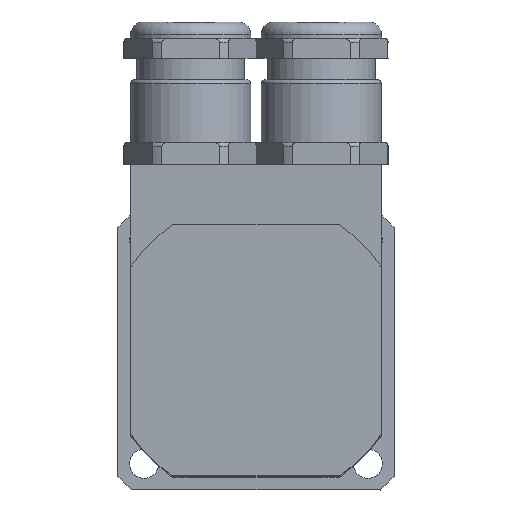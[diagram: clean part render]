
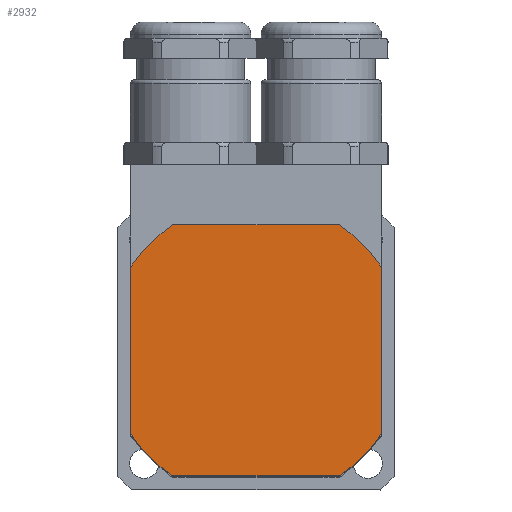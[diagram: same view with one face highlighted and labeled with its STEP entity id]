
A CAD part, top view. The second image highlights one B-rep face of the part: STEP entity #2932.
In plain terms, the highlighted planar face has unit normal (0, 0, 1).
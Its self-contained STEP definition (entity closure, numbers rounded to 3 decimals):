
#637=CIRCLE('',#3142,30.);
#638=CIRCLE('',#3144,30.);
#639=CIRCLE('',#3146,30.);
#641=CIRCLE('',#3149,30.);
#837=VERTEX_POINT('',#4816);
#838=VERTEX_POINT('',#4818);
#841=VERTEX_POINT('',#4826);
#842=VERTEX_POINT('',#4828);
#849=VERTEX_POINT('',#4844);
#850=VERTEX_POINT('',#4846);
#855=VERTEX_POINT('',#4875);
#856=VERTEX_POINT('',#4884);
#1062=VECTOR('',#3606,1.);
#1067=VECTOR('',#3612,1.);
#1076=VECTOR('',#3622,1.);
#1088=VECTOR('',#3671,1.);
#1256=LINE('',#4817,#1062);
#1261=LINE('',#4827,#1067);
#1270=LINE('',#4845,#1076);
#1282=LINE('',#4887,#1088);
#1531=EDGE_CURVE('',#837,#838,#1256,.T.);
#1536=EDGE_CURVE('',#841,#842,#1261,.T.);
#1545=EDGE_CURVE('',#849,#850,#1270,.T.);
#1560=EDGE_CURVE('',#855,#841,#637,.T.);
#1562=EDGE_CURVE('',#842,#837,#638,.T.);
#1563=EDGE_CURVE('',#838,#849,#639,.T.);
#1565=EDGE_CURVE('',#850,#856,#641,.T.);
#1567=EDGE_CURVE('',#856,#855,#1282,.T.);
#2154=ORIENTED_EDGE('',*,*,#1560,.F.);
#2155=ORIENTED_EDGE('',*,*,#1567,.F.);
#2156=ORIENTED_EDGE('',*,*,#1565,.F.);
#2157=ORIENTED_EDGE('',*,*,#1545,.F.);
#2158=ORIENTED_EDGE('',*,*,#1563,.F.);
#2159=ORIENTED_EDGE('',*,*,#1531,.F.);
#2160=ORIENTED_EDGE('',*,*,#1562,.F.);
#2161=ORIENTED_EDGE('',*,*,#1536,.F.);
#2568=EDGE_LOOP('',(#2154,#2155,#2156,#2157,#2158,#2159,#2160,#2161));
#2762=FACE_BOUND('',#2568,.T.);
#2932=ADVANCED_FACE('',(#2762),#5903,.T.);
#3142=AXIS2_PLACEMENT_3D('',#4874,#3652,#3653);
#3144=AXIS2_PLACEMENT_3D('',#4878,#3657,#3658);
#3146=AXIS2_PLACEMENT_3D('',#4880,#3661,#3662);
#3149=AXIS2_PLACEMENT_3D('',#4883,#3667,#3668);
#3151=AXIS2_PLACEMENT_3D('',#4888,#3672,$);
#3606=DIRECTION('',(-1.,0.,0.));
#3612=DIRECTION('',(0.,-1.,0.));
#3622=DIRECTION('',(0.,1.,0.));
#3652=DIRECTION('',(0.,0.,-1.));
#3653=DIRECTION('',(-25.,-16.583,0.));
#3657=DIRECTION('',(0.,0.,-1.));
#3658=DIRECTION('',(-16.583,25.,0.));
#3661=DIRECTION('',(0.,0.,-1.));
#3662=DIRECTION('',(25.,16.583,0.));
#3667=DIRECTION('',(0.,0.,-1.));
#3668=DIRECTION('',(16.583,-25.,0.));
#3671=DIRECTION('',(1.,0.,0.));
#3672=DIRECTION('',(0.,0.,1.));
#4816=CARTESIAN_POINT('',(16.583,-25.,3.5));
#4817=CARTESIAN_POINT('',(16.583,-25.,3.5));
#4818=CARTESIAN_POINT('',(-16.583,-25.,3.5));
#4826=CARTESIAN_POINT('',(25.,16.583,3.5));
#4827=CARTESIAN_POINT('',(25.,16.583,3.5));
#4828=CARTESIAN_POINT('',(25.,-16.583,3.5));
#4844=CARTESIAN_POINT('',(-25.,-16.583,3.5));
#4845=CARTESIAN_POINT('',(-25.,-16.583,3.5));
#4846=CARTESIAN_POINT('',(-25.,16.583,3.5));
#4874=CARTESIAN_POINT('',(0.,0.,3.5));
#4875=CARTESIAN_POINT('',(16.583,25.,3.5));
#4878=CARTESIAN_POINT('',(0.,0.,3.5));
#4880=CARTESIAN_POINT('',(0.,0.,3.5));
#4883=CARTESIAN_POINT('',(0.,0.,3.5));
#4884=CARTESIAN_POINT('',(-16.583,25.,3.5));
#4887=CARTESIAN_POINT('',(-16.583,25.,3.5));
#4888=CARTESIAN_POINT('',(0.,0.,3.5));
#5903=PLANE('',#3151);
